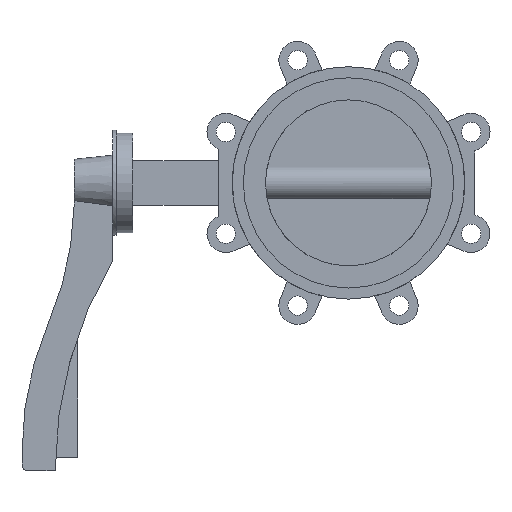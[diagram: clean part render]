
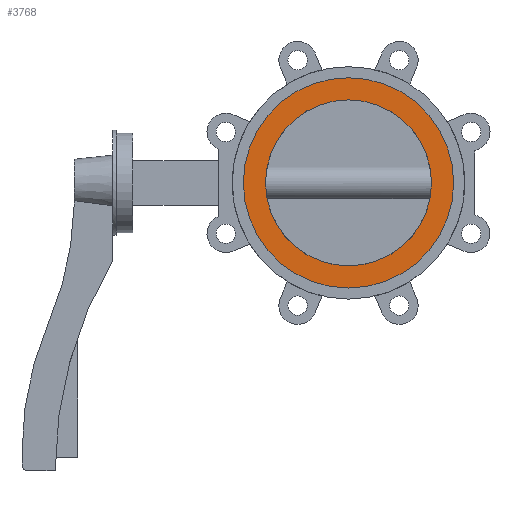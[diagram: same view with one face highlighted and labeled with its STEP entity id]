
A CAD part, left-side view. The second image highlights one B-rep face of the part: STEP entity #3768.
In plain terms, the highlighted planar face has unit normal (-1, 0, 0).
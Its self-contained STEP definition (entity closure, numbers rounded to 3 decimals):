
#259 = EDGE_CURVE ( 'NONE', #1125, #4771, #2002, .T. ) ;
#346 = CARTESIAN_POINT ( 'NONE',  ( -30.5, 0., -95. ) ) ;
#651 = EDGE_CURVE ( 'NONE', #2375, #3410, #3475, .T. ) ;
#831 = CIRCLE ( 'NONE', #1708, 95. ) ;
#1125 = VERTEX_POINT ( 'NONE', #346 ) ;
#1322 = AXIS2_PLACEMENT_3D ( 'NONE', #3258, #5464, #3284 ) ;
#1414 = EDGE_CURVE ( 'NONE', #3410, #2375, #5344, .T. ) ;
#1422 = AXIS2_PLACEMENT_3D ( 'NONE', #2315, #4457, #3175 ) ;
#1474 = ORIENTED_EDGE ( 'NONE', *, *, #1414, .T. ) ;
#1493 = DIRECTION ( 'NONE',  ( 1., 0., 0. ) ) ;
#1561 = DIRECTION ( 'NONE',  ( 0., 0., -1. ) ) ;
#1708 = AXIS2_PLACEMENT_3D ( 'NONE', #4501, #3755, #4592 ) ;
#1965 = EDGE_CURVE ( 'NONE', #4771, #1125, #831, .T. ) ;
#2002 = CIRCLE ( 'NONE', #4675, 95. ) ;
#2315 = CARTESIAN_POINT ( 'NONE',  ( -30.5, 0., 0. ) ) ;
#2352 = FACE_OUTER_BOUND ( 'NONE', #4196, .T. ) ;
#2375 = VERTEX_POINT ( 'NONE', #4584 ) ;
#2379 = PLANE ( 'NONE',  #1422 ) ;
#2465 = ORIENTED_EDGE ( 'NONE', *, *, #651, .T. ) ;
#2780 = AXIS2_PLACEMENT_3D ( 'NONE', #5504, #4203, #2933 ) ;
#2933 = DIRECTION ( 'NONE',  ( 0., 0., -1. ) ) ;
#3175 = DIRECTION ( 'NONE',  ( 0., 0., -1. ) ) ;
#3258 = CARTESIAN_POINT ( 'NONE',  ( -30.5, 0., 0. ) ) ;
#3284 = DIRECTION ( 'NONE',  ( 0., 0., -1. ) ) ;
#3410 = VERTEX_POINT ( 'NONE', #4043 ) ;
#3475 = CIRCLE ( 'NONE', #2780, 75. ) ;
#3755 = DIRECTION ( 'NONE',  ( 1., 0., 0. ) ) ;
#3759 = ORIENTED_EDGE ( 'NONE', *, *, #259, .F. ) ;
#3768 = ADVANCED_FACE ( 'NONE', ( #2352, #4485 ), #2379, .F. ) ;
#4043 = CARTESIAN_POINT ( 'NONE',  ( -30.5, 0., 75. ) ) ;
#4196 = EDGE_LOOP ( 'NONE', ( #5039, #3759 ) ) ;
#4203 = DIRECTION ( 'NONE',  ( 1., 0., 0. ) ) ;
#4457 = DIRECTION ( 'NONE',  ( 1., 0., 0. ) ) ;
#4485 = FACE_BOUND ( 'NONE', #5195, .T. ) ;
#4501 = CARTESIAN_POINT ( 'NONE',  ( -30.5, 0., 0. ) ) ;
#4584 = CARTESIAN_POINT ( 'NONE',  ( -30.5, 0., -75. ) ) ;
#4592 = DIRECTION ( 'NONE',  ( 0., 0., -1. ) ) ;
#4675 = AXIS2_PLACEMENT_3D ( 'NONE', #5438, #1493, #1561 ) ;
#4771 = VERTEX_POINT ( 'NONE', #4973 ) ;
#4973 = CARTESIAN_POINT ( 'NONE',  ( -30.5, 0., 95. ) ) ;
#5039 = ORIENTED_EDGE ( 'NONE', *, *, #1965, .F. ) ;
#5195 = EDGE_LOOP ( 'NONE', ( #1474, #2465 ) ) ;
#5344 = CIRCLE ( 'NONE', #1322, 75. ) ;
#5438 = CARTESIAN_POINT ( 'NONE',  ( -30.5, 0., 0. ) ) ;
#5464 = DIRECTION ( 'NONE',  ( 1., 0., 0. ) ) ;
#5504 = CARTESIAN_POINT ( 'NONE',  ( -30.5, 0., 0. ) ) ;
